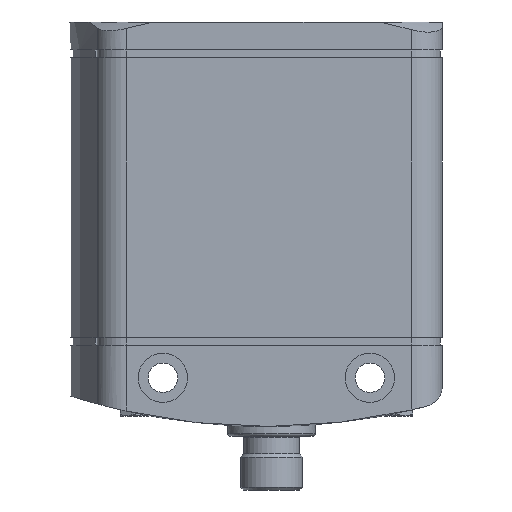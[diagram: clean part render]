
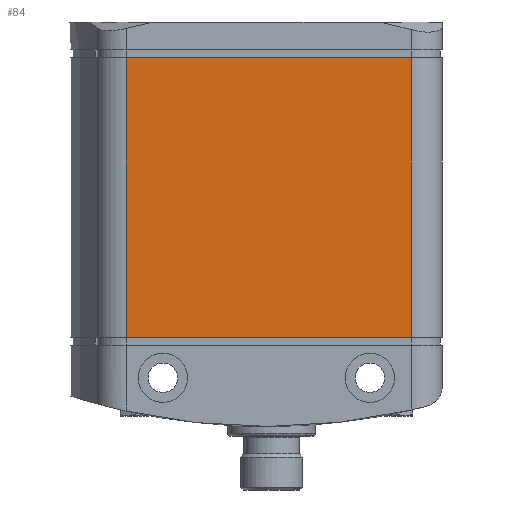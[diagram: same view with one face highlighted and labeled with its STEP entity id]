
A CAD part, left-side view. The second image highlights one B-rep face of the part: STEP entity #84.
In plain terms, the highlighted planar face has unit normal (-1, 0, 0).
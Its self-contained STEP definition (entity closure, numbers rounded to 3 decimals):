
#84 = ADVANCED_FACE( '', ( #302 ), #303, .F. );
#302 = FACE_OUTER_BOUND( '', #799, .T. );
#303 = PLANE( '', #800 );
#799 = EDGE_LOOP( '', ( #1444, #1445, #1446, #1447 ) );
#800 = AXIS2_PLACEMENT_3D( '', #1448, #1449, #1450 );
#1444 = ORIENTED_EDGE( '', *, *, #2921, .F. );
#1445 = ORIENTED_EDGE( '', *, *, #2922, .F. );
#1446 = ORIENTED_EDGE( '', *, *, #2923, .F. );
#1447 = ORIENTED_EDGE( '', *, *, #2924, .T. );
#1448 = CARTESIAN_POINT( '', ( -32.5, 61.092, 30. ) );
#1449 = DIRECTION( '', ( 1., 0., 0. ) );
#1450 = DIRECTION( '', ( 0., 0., -1. ) );
#2921 = EDGE_CURVE( '', #3408, #3409, #3410, .T. );
#2922 = EDGE_CURVE( '', #3411, #3408, #3412, .T. );
#2923 = EDGE_CURVE( '', #3413, #3411, #3414, .T. );
#2924 = EDGE_CURVE( '', #3413, #3409, #3415, .T. );
#3408 = VERTEX_POINT( '', #4252 );
#3409 = VERTEX_POINT( '', #4253 );
#3410 = LINE( '', #4254, #4255 );
#3411 = VERTEX_POINT( '', #4256 );
#3412 = LINE( '', #4257, #4258 );
#3413 = VERTEX_POINT( '', #4259 );
#3414 = LINE( '', #4260, #4261 );
#3415 = LINE( '', #4262, #4263 );
#4252 = CARTESIAN_POINT( '', ( -32.5, 6., -54. ) );
#4253 = CARTESIAN_POINT( '', ( -32.5, 61.092, -54. ) );
#4254 = CARTESIAN_POINT( '', ( -32.5, 61.092, -54. ) );
#4255 = VECTOR( '', #6245, 1000. );
#4256 = CARTESIAN_POINT( '', ( -32.5, 6., 0. ) );
#4257 = CARTESIAN_POINT( '', ( -32.5, 6., 30. ) );
#4258 = VECTOR( '', #6246, 1000. );
#4259 = CARTESIAN_POINT( '', ( -32.5, 61.092, 0. ) );
#4260 = CARTESIAN_POINT( '', ( -32.5, 61.092, 0. ) );
#4261 = VECTOR( '', #6247, 1000. );
#4262 = CARTESIAN_POINT( '', ( -32.5, 61.092, 30. ) );
#4263 = VECTOR( '', #6248, 1000. );
#6245 = DIRECTION( '', ( 0., 1., 0. ) );
#6246 = DIRECTION( '', ( 0., 0., -1. ) );
#6247 = DIRECTION( '', ( 0., -1., 0. ) );
#6248 = DIRECTION( '', ( 0., 0., -1. ) );
